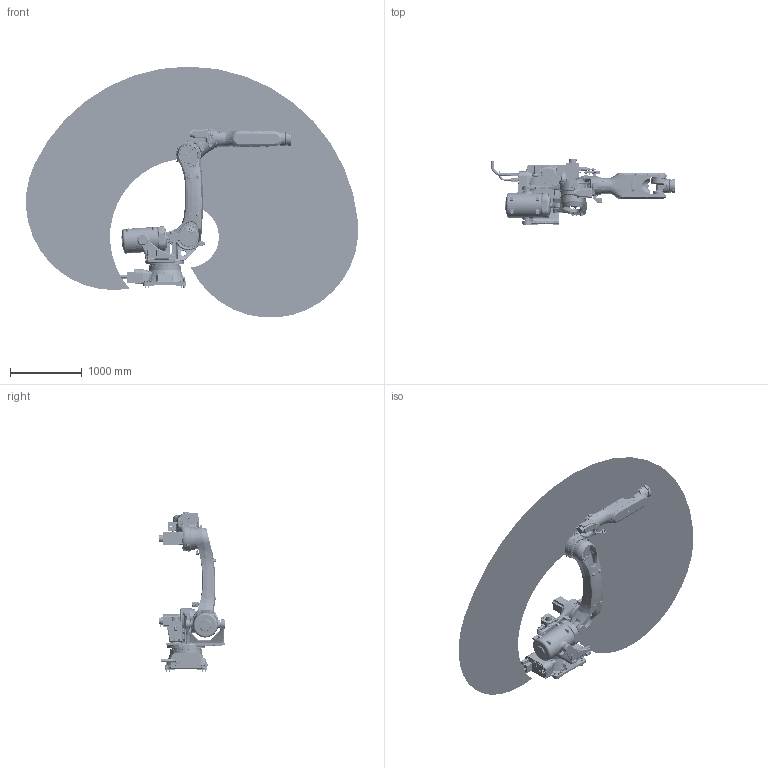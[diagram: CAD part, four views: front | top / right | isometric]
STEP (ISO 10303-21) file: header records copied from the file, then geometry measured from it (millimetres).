
FILE_DESCRIPTION(/* description */ (''),/* implementation_level */ '2;1');
FILE_NAME(/* name */ 'NB220-22027 简化模型（20251208）.stp',/* time_stamp */ '2025-12-09T09:31:42+08:00',/* author */ (''),/* organization */ (''),/* preprocessor_version */ 'ST-DEVELOPER v16',/* originating_system */ 'SIEMENS PLM Software NX 10.0',/* authorisation */ '');
FILE_SCHEMA (('CONFIG_CONTROL_DESIGN'));
Products named in the file (12): NB220-22027-3Dwork-A; ROKAE标识1.5倍; NB220-22027-shuchu-A; NB220-22027-shouwan-A; NB220-22027-xiaobiqian-A; NB220-22027-xiaobihou-A; NB220-22027-lagan-A; NB220-22027-gang-A; NB220-22027-dabi-A; NB220-22027-yao-A; NB220-22027-base-A; NB220-22027 简化模型（20251208）
Assembly tree (12 placements, depth 2):
  NB220-22027 简化模型（20251208）
    NB220-22027-base-A
    NB220-22027-yao-A
    NB220-22027-dabi-A
    NB220-22027-gang-A
    NB220-22027-lagan-A
    NB220-22027-xiaobihou-A
    NB220-22027-xiaobiqian-A
    NB220-22027-shouwan-A
    NB220-22027-shuchu-A
    ROKAE标识1.5倍  x2
    NB220-22027-3Dwork-A
Bounding box: 4640.49 x 923 x 3505.09 mm (x, y, z)
Volume: 331741208.4 mm3; surface area: 21487084.4 mm2
Topology: 25 solids, 62 shells, 8324 faces, 20120 edges, 12296 vertices
Faces by surface type: plane 2820, cylinder 2094, bspline 2058, torus 631, cone 613, sphere 84, extrusion 22, revolution 2
Full cylindrical faces by diameter (mm): 2.874 x8, 5 x36, 5.795 x11, 6 x5, 6.5 x4, 6.6 x2, 6.8 x4, 7 x20, 8 x2, 8.5 x19, 8.566 x1, 8.839 x2, 10 x40, 10.3 x35, 11.05 x8, 12 x3, 13 x24, 13.629 x1, 14 x2, 16 x17, 17.5 x4, 18 x43, 20 x14, 20.685 x2, 24 x8, 25 x1, 25.492 x1, 27 x4, 30 x10, 35 x5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
Entity records: 373106 total; most frequent: CARTESIAN_POINT 198360, ORIENTED_EDGE 37078, DIRECTION 32891, EDGE_CURVE 18543, AXIS2_PLACEMENT_3D 12943, VERTEX_POINT 11863, EDGE_LOOP 9746, ADVANCED_FACE 8237
